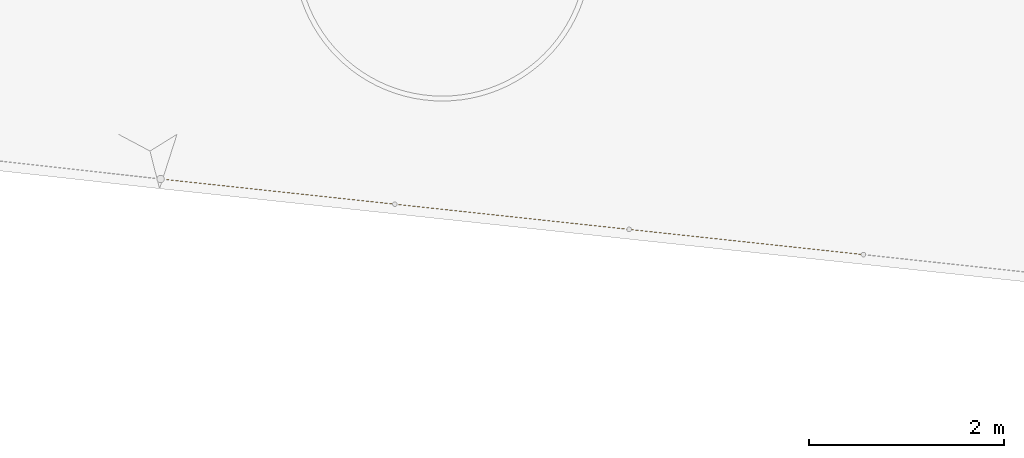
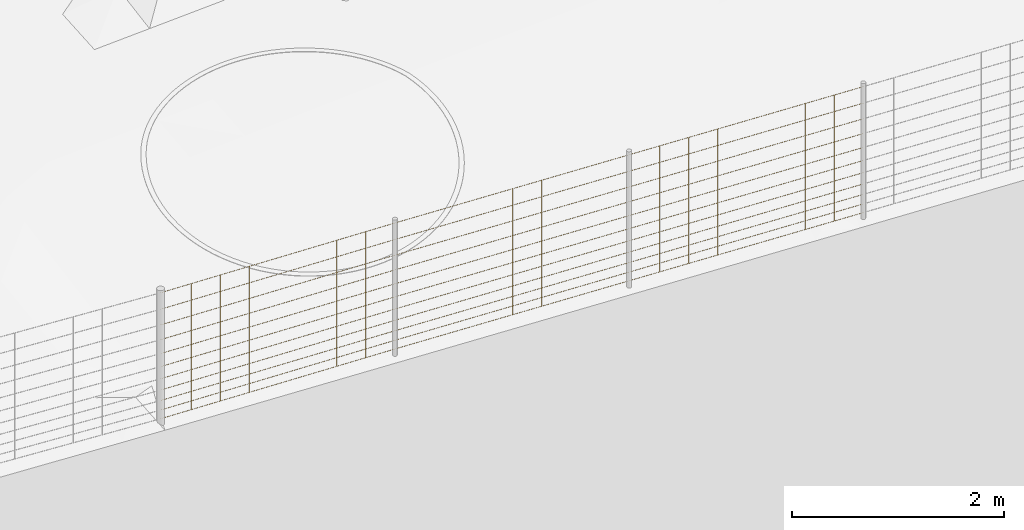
# Not in any storey, part 38 of 72: 3 railings.
"""IFC4 model written with IfcOpenShell, lengths in metres."""

from ifc_helpers import new_model, si_unit, direction, frame, origin_with_axes, place, context, subcontext, project, spatial, polygons, material, element, save


model = new_model("IFC4")

# Units and contexts
model_context = context("Model", 3, precision=1e-05, world=origin_with_axes(), true_north=direction((0.0, 1.0)))
body_context = subcontext(model_context, "Body", "Model", "MODEL_VIEW")
ifc_project = project(units=[si_unit("AREAUNIT", "SQUARE_METRE"), si_unit("VOLUMEUNIT", "CUBIC_METRE"), si_unit("LENGTHUNIT", "METRE")], contexts=[model_context])

# Site
site_placement = place(None, origin_with_axes())
site = spatial("IfcSite", under=ifc_project, at=site_placement, Name="Lares · Rua das Mercês · artigo 4771")

# Railings
ifc_material = material(Name="Aço galvanizado / Stahl verzinkt", Category="steel")
railing_1_placement = place(site_placement, frame((0.0, 0.0, 0.0), z_axis=(0.0, 0.0, 1.0), x_axis=(1.0, -1.03767253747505e-17, 0.0)))
element("IfcRailing", 1, at=railing_1_placement, inside=site, material=ifc_material, Name="Vedação · rede ovelheira 1.020", ObjectType="SHEEP_WIRE_FENCE", PredefinedType="USERDEFINED", context=body_context, shape_type="Tessellation", body=[
    polygons([(42.3277956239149, -1.79084154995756, 13.3975692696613), (42.3276973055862, -1.79233962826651, 13.3960705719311), (42.3274747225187, -1.79382433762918, 13.3975692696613), (42.3275730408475, -1.79232625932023, 13.3990679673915), (39.9270800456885, -1.53256202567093, 13.296889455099), (39.9269817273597, -1.53406010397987, 13.2953907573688), (39.9267591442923, -1.53554481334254, 13.296889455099), (39.926857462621, -1.53404673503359, 13.2983881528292), (42.3277956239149, -1.79084154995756, 13.4975692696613), (42.3276973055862, -1.79233962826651, 13.4960705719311), (42.3274747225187, -1.79382433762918, 13.4975692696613), (42.3275730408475, -1.79232625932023, 13.4990679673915), (39.9270800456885, -1.53256202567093, 13.396889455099), (39.9269817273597, -1.53406010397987, 13.3953907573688), (39.9267591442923, -1.53554481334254, 13.396889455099), (39.926857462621, -1.53404673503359, 13.3983881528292), (42.3277956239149, -1.79084154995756, 13.6075692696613), (42.3276973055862, -1.79233962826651, 13.6060705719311), (42.3274747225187, -1.79382433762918, 13.6075692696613), (42.3275730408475, -1.79232625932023, 13.6090679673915), (39.9270800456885, -1.53256202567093, 13.506889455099), (39.9269817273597, -1.53406010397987, 13.5053907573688), (39.9267591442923, -1.53554481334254, 13.506889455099), (39.926857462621, -1.53404673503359, 13.5083881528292), (42.3277956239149, -1.79084154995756, 13.7275692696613), (42.3276973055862, -1.79233962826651, 13.7260705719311), (42.3274747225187, -1.79382433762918, 13.7275692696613), (42.3275730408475, -1.79232625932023, 13.7290679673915), (39.9270800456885, -1.53256202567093, 13.626889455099), (39.9269817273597, -1.53406010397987, 13.6253907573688), (39.9267591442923, -1.53554481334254, 13.626889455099), (39.926857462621, -1.53404673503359, 13.6283881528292), (42.3277956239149, -1.79084154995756, 13.8575692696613), (42.3276973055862, -1.79233962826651, 13.8560705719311), (42.3274747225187, -1.79382433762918, 13.8575692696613), (42.3275730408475, -1.79232625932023, 13.8590679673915), (39.9270800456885, -1.53256202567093, 13.756889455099), (39.9269817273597, -1.53406010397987, 13.7553907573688), (39.9267591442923, -1.53554481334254, 13.756889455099), (39.926857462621, -1.53404673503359, 13.7583881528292), (42.3277956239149, -1.79084154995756, 13.9975692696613), (42.3276973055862, -1.79233962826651, 13.9960705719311), (42.3274747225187, -1.79382433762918, 13.9975692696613), (42.3275730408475, -1.79232625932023, 13.9990679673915), (39.9270800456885, -1.53256202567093, 13.896889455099), (39.9269817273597, -1.53406010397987, 13.8953907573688), (39.9267591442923, -1.53554481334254, 13.896889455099), (39.926857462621, -1.53404673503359, 13.8983881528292), (42.3277956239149, -1.79084154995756, 14.1475692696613), (42.3276973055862, -1.79233962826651, 14.1460705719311), (42.3274747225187, -1.79382433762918, 14.1475692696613), (42.3275730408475, -1.79232625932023, 14.1490679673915), (39.9270800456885, -1.53256202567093, 14.046889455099), (39.9269817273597, -1.53406010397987, 14.0453907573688), (39.9267591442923, -1.53554481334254, 14.046889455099), (39.926857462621, -1.53404673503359, 14.0483881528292), (42.3277956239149, -1.79084154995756, 14.3075692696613), (42.3276973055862, -1.79233962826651, 14.3060705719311), (42.3274747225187, -1.79382433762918, 14.3075692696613), (42.3275730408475, -1.79232625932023, 14.3090679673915), (39.9270800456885, -1.53256202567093, 14.206889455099), (39.9269817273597, -1.53406010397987, 14.2053907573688), (39.9267591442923, -1.53554481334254, 14.206889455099), (39.926857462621, -1.53404673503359, 14.2083881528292), (42.3277956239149, -1.79084154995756, 14.4775692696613), (42.3276973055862, -1.79233962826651, 14.4760705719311), (42.3274747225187, -1.79382433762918, 14.4775692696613), (42.3275730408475, -1.79232625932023, 14.4790679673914), (39.9270800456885, -1.53256202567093, 14.376889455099), (39.9269817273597, -1.53406010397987, 14.3753907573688), (39.9267591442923, -1.53554481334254, 14.376889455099), (39.926857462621, -1.53404673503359, 14.3783881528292), (42.3277956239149, -1.79084154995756, 14.6575692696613), (42.3276973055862, -1.79233962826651, 14.6560705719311), (42.3274747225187, -1.79382433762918, 14.6575692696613), (42.3275730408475, -1.79232625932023, 14.6590679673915), (39.9270800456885, -1.53256202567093, 14.556889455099), (39.9269817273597, -1.53406010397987, 14.5553907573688), (39.9267591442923, -1.53554481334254, 14.556889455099), (39.926857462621, -1.53404673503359, 14.5583881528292), (42.3277956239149, -1.79084154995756, 14.8475692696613), (42.3276973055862, -1.79233962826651, 14.8460705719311), (42.3274747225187, -1.79382433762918, 14.8475692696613), (42.3275730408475, -1.79232625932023, 14.8490679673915), (39.9270800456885, -1.53256202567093, 14.746889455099), (39.9269817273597, -1.53406010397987, 14.7453907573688), (39.9267591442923, -1.53554481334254, 14.746889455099), (39.926857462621, -1.53404673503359, 14.7483881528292), (42.0293564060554, -1.75874280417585, 13.3850602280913), (42.0278564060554, -1.76024280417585, 13.3850602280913), (42.0293564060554, -1.76174280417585, 13.3850602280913), (42.0308564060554, -1.76024280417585, 13.3850602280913), (42.0293564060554, -1.75874280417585, 14.8350602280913), (42.0278564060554, -1.76024280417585, 14.8350602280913), (42.0293564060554, -1.76174280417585, 14.8350602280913), (42.0308564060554, -1.76024280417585, 14.8350602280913), (41.731077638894, -1.72665266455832, 13.3725511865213), (41.729577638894, -1.72815266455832, 13.3725511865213), (41.731077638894, -1.72965266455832, 13.3725511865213), (41.732577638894, -1.72815266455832, 13.3725511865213), (41.731077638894, -1.72665266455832, 14.8225511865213), (41.729577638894, -1.72815266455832, 14.8225511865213), (41.731077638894, -1.72965266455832, 14.8225511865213), (41.732577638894, -1.72815266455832, 14.8225511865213), (41.4327988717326, -1.6945625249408, 13.3600421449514), (41.4312988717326, -1.6960625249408, 13.3600421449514), (41.4327988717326, -1.6975625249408, 13.3600421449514), (41.4342988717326, -1.6960625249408, 13.3600421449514), (41.4327988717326, -1.6945625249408, 14.8100421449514), (41.4312988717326, -1.6960625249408, 14.8100421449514), (41.4327988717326, -1.6975625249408, 14.8100421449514), (41.4342988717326, -1.6960625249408, 14.8100421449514), (41.1345201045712, -1.66247238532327, 13.3475331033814), (41.1330201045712, -1.66397238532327, 13.3475331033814), (41.1345201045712, -1.66547238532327, 13.3475331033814), (41.1360201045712, -1.66397238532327, 13.3475331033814), (41.1345201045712, -1.66247238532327, 14.7975331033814), (41.1330201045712, -1.66397238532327, 14.7975331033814), (41.1345201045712, -1.66547238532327, 14.7975331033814), (41.1360201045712, -1.66397238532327, 14.7975331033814), (40.8362413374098, -1.63038224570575, 13.3350240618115), (40.8347413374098, -1.63188224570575, 13.3350240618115), (40.8362413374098, -1.63338224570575, 13.3350240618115), (40.8377413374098, -1.63188224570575, 13.3350240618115), (40.8362413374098, -1.63038224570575, 14.7850240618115), (40.8347413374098, -1.63188224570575, 14.7850240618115), (40.8362413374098, -1.63338224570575, 14.7850240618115), (40.8377413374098, -1.63188224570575, 14.7850240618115), (40.5379625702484, -1.59829210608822, 13.3225150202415), (40.5364625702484, -1.59979210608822, 13.3225150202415), (40.5379625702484, -1.60129210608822, 13.3225150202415), (40.5394625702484, -1.59979210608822, 13.3225150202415), (40.5379625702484, -1.59829210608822, 14.7725150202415), (40.5364625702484, -1.59979210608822, 14.7725150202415), (40.5379625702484, -1.60129210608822, 14.7725150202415), (40.5394625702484, -1.59979210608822, 14.7725150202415), (40.239683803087, -1.5662019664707, 13.3100059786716), (40.238183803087, -1.5677019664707, 13.3100059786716), (40.239683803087, -1.5692019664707, 13.3100059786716), (40.241183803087, -1.5677019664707, 13.3100059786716), (40.239683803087, -1.5662019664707, 14.7600059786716), (40.238183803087, -1.5677019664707, 14.7600059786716), (40.239683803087, -1.5692019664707, 14.7600059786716), (40.241183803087, -1.5677019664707, 14.7600059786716)], [[[4, 3, 2, 1]], [[5, 6, 7, 8]], [[1, 2, 6, 5]], [[2, 3, 7, 6]], [[3, 4, 8, 7]], [[4, 1, 5, 8]], [[12, 11, 10, 9]], [[13, 14, 15, 16]], [[9, 10, 14, 13]], [[10, 11, 15, 14]], [[11, 12, 16, 15]], [[12, 9, 13, 16]], [[20, 19, 18, 17]], [[21, 22, 23, 24]], [[17, 18, 22, 21]], [[18, 19, 23, 22]], [[19, 20, 24, 23]], [[20, 17, 21, 24]], [[28, 27, 26, 25]], [[29, 30, 31, 32]], [[25, 26, 30, 29]], [[26, 27, 31, 30]], [[27, 28, 32, 31]], [[28, 25, 29, 32]], [[36, 35, 34, 33]], [[37, 38, 39, 40]], [[33, 34, 38, 37]], [[34, 35, 39, 38]], [[35, 36, 40, 39]], [[36, 33, 37, 40]], [[44, 43, 42, 41]], [[45, 46, 47, 48]], [[41, 42, 46, 45]], [[42, 43, 47, 46]], [[43, 44, 48, 47]], [[44, 41, 45, 48]], [[52, 51, 50, 49]], [[53, 54, 55, 56]], [[49, 50, 54, 53]], [[50, 51, 55, 54]], [[51, 52, 56, 55]], [[52, 49, 53, 56]], [[60, 59, 58, 57]], [[61, 62, 63, 64]], [[57, 58, 62, 61]], [[58, 59, 63, 62]], [[59, 60, 64, 63]], [[60, 57, 61, 64]], [[68, 67, 66, 65]], [[69, 70, 71, 72]], [[65, 66, 70, 69]], [[66, 67, 71, 70]], [[67, 68, 72, 71]], [[68, 65, 69, 72]], [[76, 75, 74, 73]], [[77, 78, 79, 80]], [[73, 74, 78, 77]], [[74, 75, 79, 78]], [[75, 76, 80, 79]], [[76, 73, 77, 80]], [[84, 83, 82, 81]], [[85, 86, 87, 88]], [[81, 82, 86, 85]], [[82, 83, 87, 86]], [[83, 84, 88, 87]], [[84, 81, 85, 88]], [[92, 91, 90, 89]], [[93, 94, 95, 96]], [[89, 90, 94, 93]], [[90, 91, 95, 94]], [[91, 92, 96, 95]], [[92, 89, 93, 96]], [[100, 99, 98, 97]], [[101, 102, 103, 104]], [[97, 98, 102, 101]], [[98, 99, 103, 102]], [[99, 100, 104, 103]], [[100, 97, 101, 104]], [[108, 107, 106, 105]], [[109, 110, 111, 112]], [[105, 106, 110, 109]], [[106, 107, 111, 110]], [[107, 108, 112, 111]], [[108, 105, 109, 112]], [[116, 115, 114, 113]], [[117, 118, 119, 120]], [[113, 114, 118, 117]], [[114, 115, 119, 118]], [[115, 116, 120, 119]], [[116, 113, 117, 120]], [[124, 123, 122, 121]], [[125, 126, 127, 128]], [[121, 122, 126, 125]], [[122, 123, 127, 126]], [[123, 124, 128, 127]], [[124, 121, 125, 128]], [[132, 131, 130, 129]], [[133, 134, 135, 136]], [[129, 130, 134, 133]], [[130, 131, 135, 134]], [[131, 132, 136, 135]], [[132, 129, 133, 136]], [[140, 139, 138, 137]], [[141, 142, 143, 144]], [[137, 138, 142, 141]], [[138, 139, 143, 142]], [[139, 140, 144, 143]], [[140, 137, 141, 144]]]),
])
railing_2_placement = place(site_placement, frame((0.0, 0.0, 0.0), z_axis=(0.0, 0.0, 1.0), x_axis=(1.0, -1.03767253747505e-17, 0.0)))
element("IfcRailing", 2, at=railing_2_placement, inside=site, material=ifc_material, Name="Vedação · rede ovelheira 1.021", ObjectType="SHEEP_WIRE_FENCE", PredefinedType="USERDEFINED", context=body_context, shape_type="Tessellation", body=[
    polygons([(39.9270800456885, -1.53256202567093, 13.296889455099), (39.9269820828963, -1.53406014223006, 13.2953907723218), (39.9267591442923, -1.53554481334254, 13.296889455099), (39.9268571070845, -1.53404669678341, 13.2983881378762), (37.526364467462, -1.27428250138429, 13.1956325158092), (37.5262665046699, -1.27578061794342, 13.194133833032), (37.5260435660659, -1.2772652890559, 13.1956325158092), (37.526141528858, -1.27576717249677, 13.1971311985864), (39.9270800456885, -1.53256202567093, 13.396889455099), (39.9269820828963, -1.53406014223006, 13.3953907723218), (39.9267591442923, -1.53554481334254, 13.396889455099), (39.9268571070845, -1.53404669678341, 13.3983881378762), (37.526364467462, -1.27428250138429, 13.2956325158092), (37.5262665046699, -1.27578061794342, 13.294133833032), (37.5260435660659, -1.2772652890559, 13.2956325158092), (37.526141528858, -1.27576717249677, 13.2971311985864), (39.9270800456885, -1.53256202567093, 13.506889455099), (39.9269820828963, -1.53406014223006, 13.5053907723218), (39.9267591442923, -1.53554481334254, 13.506889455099), (39.9268571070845, -1.53404669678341, 13.5083881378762), (37.526364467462, -1.27428250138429, 13.4056325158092), (37.5262665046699, -1.27578061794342, 13.404133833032), (37.5260435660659, -1.2772652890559, 13.4056325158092), (37.526141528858, -1.27576717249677, 13.4071311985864), (39.9270800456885, -1.53256202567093, 13.626889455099), (39.9269820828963, -1.53406014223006, 13.6253907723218), (39.9267591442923, -1.53554481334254, 13.626889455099), (39.9268571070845, -1.53404669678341, 13.6283881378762), (37.526364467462, -1.27428250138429, 13.5256325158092), (37.5262665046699, -1.27578061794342, 13.524133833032), (37.5260435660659, -1.2772652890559, 13.5256325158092), (37.526141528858, -1.27576717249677, 13.5271311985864), (39.9270800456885, -1.53256202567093, 13.756889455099), (39.9269820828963, -1.53406014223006, 13.7553907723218), (39.9267591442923, -1.53554481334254, 13.756889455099), (39.9268571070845, -1.53404669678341, 13.7583881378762), (37.526364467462, -1.27428250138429, 13.6556325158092), (37.5262665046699, -1.27578061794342, 13.654133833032), (37.5260435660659, -1.2772652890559, 13.6556325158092), (37.526141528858, -1.27576717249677, 13.6571311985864), (39.9270800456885, -1.53256202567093, 13.896889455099), (39.9269820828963, -1.53406014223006, 13.8953907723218), (39.9267591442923, -1.53554481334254, 13.896889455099), (39.9268571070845, -1.53404669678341, 13.8983881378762), (37.526364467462, -1.27428250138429, 13.7956325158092), (37.5262665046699, -1.27578061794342, 13.794133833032), (37.5260435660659, -1.2772652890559, 13.7956325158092), (37.526141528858, -1.27576717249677, 13.7971311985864), (39.9270800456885, -1.53256202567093, 14.046889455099), (39.9269820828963, -1.53406014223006, 14.0453907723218), (39.9267591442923, -1.53554481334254, 14.046889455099), (39.9268571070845, -1.53404669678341, 14.0483881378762), (37.526364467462, -1.27428250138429, 13.9456325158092), (37.5262665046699, -1.27578061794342, 13.944133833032), (37.5260435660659, -1.2772652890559, 13.9456325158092), (37.526141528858, -1.27576717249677, 13.9471311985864), (39.9270800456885, -1.53256202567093, 14.206889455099), (39.9269820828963, -1.53406014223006, 14.2053907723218), (39.9267591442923, -1.53554481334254, 14.206889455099), (39.9268571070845, -1.53404669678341, 14.2083881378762), (37.526364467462, -1.27428250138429, 14.1056325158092), (37.5262665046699, -1.27578061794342, 14.104133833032), (37.5260435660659, -1.2772652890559, 14.1056325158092), (37.526141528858, -1.27576717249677, 14.1071311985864), (39.9270800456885, -1.53256202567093, 14.376889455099), (39.9269820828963, -1.53406014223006, 14.3753907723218), (39.9267591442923, -1.53554481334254, 14.376889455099), (39.9268571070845, -1.53404669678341, 14.3783881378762), (37.526364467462, -1.27428250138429, 14.2756325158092), (37.5262665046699, -1.27578061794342, 14.274133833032), (37.5260435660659, -1.2772652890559, 14.2756325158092), (37.526141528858, -1.27576717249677, 14.2771311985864), (39.9270800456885, -1.53256202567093, 14.556889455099), (39.9269820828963, -1.53406014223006, 14.5553907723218), (39.9267591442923, -1.53554481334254, 14.556889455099), (39.9268571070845, -1.53404669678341, 14.5583881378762), (37.526364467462, -1.27428250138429, 14.4556325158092), (37.5262665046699, -1.27578061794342, 14.454133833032), (37.5260435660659, -1.2772652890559, 14.4556325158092), (37.526141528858, -1.27576717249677, 14.4571311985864), (39.9270800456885, -1.53256202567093, 14.746889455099), (39.9269820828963, -1.53406014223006, 14.7453907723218), (39.9267591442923, -1.53554481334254, 14.746889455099), (39.9268571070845, -1.53404669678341, 14.7483881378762), (37.526364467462, -1.27428250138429, 14.6456325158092), (37.5262665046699, -1.27578061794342, 14.644133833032), (37.5260435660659, -1.2772652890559, 14.6456325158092), (37.526141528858, -1.27576717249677, 14.6471311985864), (39.628640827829, -1.50046327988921, 13.2843087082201), (39.627140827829, -1.50196327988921, 13.2843087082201), (39.628640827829, -1.50346327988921, 13.2843087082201), (39.630140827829, -1.50196327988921, 13.2843087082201), (39.628640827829, -1.50046327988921, 14.7343087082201), (39.627140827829, -1.50196327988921, 14.7343087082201), (39.628640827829, -1.50346327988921, 14.7343087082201), (39.630140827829, -1.50196327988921, 14.7343087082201), (39.3303620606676, -1.46837314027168, 13.2717279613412), (39.3288620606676, -1.46987314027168, 13.2717279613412), (39.3303620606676, -1.47137314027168, 13.2717279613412), (39.3318620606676, -1.46987314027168, 13.2717279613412), (39.3303620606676, -1.46837314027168, 14.7217279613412), (39.3288620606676, -1.46987314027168, 14.7217279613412), (39.3303620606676, -1.47137314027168, 14.7217279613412), (39.3318620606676, -1.46987314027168, 14.7217279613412), (39.0320832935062, -1.43628300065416, 13.2591472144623), (39.0305832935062, -1.43778300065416, 13.2591472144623), (39.0320832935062, -1.43928300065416, 13.2591472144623), (39.0335832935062, -1.43778300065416, 13.2591472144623), (39.0320832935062, -1.43628300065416, 14.7091472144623), (39.0305832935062, -1.43778300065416, 14.7091472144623), (39.0320832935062, -1.43928300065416, 14.7091472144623), (39.0335832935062, -1.43778300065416, 14.7091472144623), (38.7338045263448, -1.40419286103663, 13.2465664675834), (38.7323045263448, -1.40569286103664, 13.2465664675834), (38.7338045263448, -1.40719286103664, 13.2465664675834), (38.7353045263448, -1.40569286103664, 13.2465664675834), (38.7338045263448, -1.40419286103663, 14.6965664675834), (38.7323045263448, -1.40569286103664, 14.6965664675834), (38.7338045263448, -1.40719286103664, 14.6965664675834), (38.7353045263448, -1.40569286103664, 14.6965664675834), (38.4355257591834, -1.37210272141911, 13.2339857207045), (38.4340257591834, -1.37360272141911, 13.2339857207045), (38.4355257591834, -1.37510272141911, 13.2339857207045), (38.4370257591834, -1.37360272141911, 13.2339857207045), (38.4355257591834, -1.37210272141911, 14.6839857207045), (38.4340257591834, -1.37360272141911, 14.6839857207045), (38.4355257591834, -1.37510272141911, 14.6839857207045), (38.4370257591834, -1.37360272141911, 14.6839857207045), (38.137246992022, -1.34001258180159, 13.2214049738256), (38.135746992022, -1.34151258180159, 13.2214049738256), (38.137246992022, -1.34301258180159, 13.2214049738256), (38.138746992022, -1.34151258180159, 13.2214049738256), (38.137246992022, -1.34001258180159, 14.6714049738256), (38.135746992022, -1.34151258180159, 14.6714049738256), (38.137246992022, -1.34301258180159, 14.6714049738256), (38.138746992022, -1.34151258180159, 14.6714049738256), (37.8389682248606, -1.30792244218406, 13.2088242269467), (37.8374682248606, -1.30942244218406, 13.2088242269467), (37.8389682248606, -1.31092244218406, 13.2088242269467), (37.8404682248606, -1.30942244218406, 13.2088242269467), (37.8389682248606, -1.30792244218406, 14.6588242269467), (37.8374682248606, -1.30942244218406, 14.6588242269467), (37.8389682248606, -1.31092244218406, 14.6588242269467), (37.8404682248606, -1.30942244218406, 14.6588242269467)], [[[4, 3, 2, 1]], [[5, 6, 7, 8]], [[1, 2, 6, 5]], [[2, 3, 7, 6]], [[3, 4, 8, 7]], [[4, 1, 5, 8]], [[12, 11, 10, 9]], [[13, 14, 15, 16]], [[9, 10, 14, 13]], [[10, 11, 15, 14]], [[11, 12, 16, 15]], [[12, 9, 13, 16]], [[20, 19, 18, 17]], [[21, 22, 23, 24]], [[17, 18, 22, 21]], [[18, 19, 23, 22]], [[19, 20, 24, 23]], [[20, 17, 21, 24]], [[28, 27, 26, 25]], [[29, 30, 31, 32]], [[25, 26, 30, 29]], [[26, 27, 31, 30]], [[27, 28, 32, 31]], [[28, 25, 29, 32]], [[36, 35, 34, 33]], [[37, 38, 39, 40]], [[33, 34, 38, 37]], [[34, 35, 39, 38]], [[35, 36, 40, 39]], [[36, 33, 37, 40]], [[44, 43, 42, 41]], [[45, 46, 47, 48]], [[41, 42, 46, 45]], [[42, 43, 47, 46]], [[43, 44, 48, 47]], [[44, 41, 45, 48]], [[52, 51, 50, 49]], [[53, 54, 55, 56]], [[49, 50, 54, 53]], [[50, 51, 55, 54]], [[51, 52, 56, 55]], [[52, 49, 53, 56]], [[60, 59, 58, 57]], [[61, 62, 63, 64]], [[57, 58, 62, 61]], [[58, 59, 63, 62]], [[59, 60, 64, 63]], [[60, 57, 61, 64]], [[68, 67, 66, 65]], [[69, 70, 71, 72]], [[65, 66, 70, 69]], [[66, 67, 71, 70]], [[67, 68, 72, 71]], [[68, 65, 69, 72]], [[76, 75, 74, 73]], [[77, 78, 79, 80]], [[73, 74, 78, 77]], [[74, 75, 79, 78]], [[75, 76, 80, 79]], [[76, 73, 77, 80]], [[84, 83, 82, 81]], [[85, 86, 87, 88]], [[81, 82, 86, 85]], [[82, 83, 87, 86]], [[83, 84, 88, 87]], [[84, 81, 85, 88]], [[92, 91, 90, 89]], [[93, 94, 95, 96]], [[89, 90, 94, 93]], [[90, 91, 95, 94]], [[91, 92, 96, 95]], [[92, 89, 93, 96]], [[100, 99, 98, 97]], [[101, 102, 103, 104]], [[97, 98, 102, 101]], [[98, 99, 103, 102]], [[99, 100, 104, 103]], [[100, 97, 101, 104]], [[108, 107, 106, 105]], [[109, 110, 111, 112]], [[105, 106, 110, 109]], [[106, 107, 111, 110]], [[107, 108, 112, 111]], [[108, 105, 109, 112]], [[116, 115, 114, 113]], [[117, 118, 119, 120]], [[113, 114, 118, 117]], [[114, 115, 119, 118]], [[115, 116, 120, 119]], [[116, 113, 117, 120]], [[124, 123, 122, 121]], [[125, 126, 127, 128]], [[121, 122, 126, 125]], [[122, 123, 127, 126]], [[123, 124, 128, 127]], [[124, 121, 125, 128]], [[132, 131, 130, 129]], [[133, 134, 135, 136]], [[129, 130, 134, 133]], [[130, 131, 135, 134]], [[131, 132, 136, 135]], [[132, 129, 133, 136]], [[140, 139, 138, 137]], [[141, 142, 143, 144]], [[137, 138, 142, 141]], [[138, 139, 143, 142]], [[139, 140, 144, 143]], [[140, 137, 141, 144]]]),
])
railing_3_placement = place(site_placement, frame((0.0, 0.0, 0.0), z_axis=(0.0, 0.0, 1.0), x_axis=(1.0, -1.03767253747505e-17, 0.0)))
element("IfcRailing", 3, at=railing_3_placement, inside=site, material=ifc_material, Name="Vedação · rede ovelheira 1.022", ObjectType="SHEEP_WIRE_FENCE", PredefinedType="USERDEFINED", context=body_context, shape_type="Tessellation", body=[
    polygons([(37.526364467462, -1.27428250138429, 13.1956325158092), (37.5262772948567, -1.2757817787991, 13.1941343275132), (37.5260435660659, -1.2772652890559, 13.1956325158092), (37.5261307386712, -1.27576601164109, 13.1971307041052), (35.1256488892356, -1.01600297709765, 13.0768517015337), (35.1255617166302, -1.01750225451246, 13.0753535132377), (35.1253279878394, -1.01898576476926, 13.0768517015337), (35.1254151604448, -1.01748648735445, 13.0783498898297), (37.526364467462, -1.27428250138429, 13.2956325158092), (37.5262772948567, -1.2757817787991, 13.2941343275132), (37.5260435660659, -1.2772652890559, 13.2956325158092), (37.5261307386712, -1.27576601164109, 13.2971307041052), (35.1256488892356, -1.01600297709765, 13.1768517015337), (35.1255617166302, -1.01750225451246, 13.1753535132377), (35.1253279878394, -1.01898576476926, 13.1768517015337), (35.1254151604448, -1.01748648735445, 13.1783498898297), (37.526364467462, -1.27428250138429, 13.4056325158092), (37.5262772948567, -1.2757817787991, 13.4041343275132), (37.5260435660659, -1.2772652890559, 13.4056325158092), (37.5261307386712, -1.27576601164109, 13.4071307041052), (35.1256488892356, -1.01600297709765, 13.2868517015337), (35.1255617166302, -1.01750225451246, 13.2853535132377), (35.1253279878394, -1.01898576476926, 13.2868517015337), (35.1254151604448, -1.01748648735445, 13.2883498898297), (37.526364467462, -1.27428250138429, 13.5256325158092), (37.5262772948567, -1.2757817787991, 13.5241343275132), (37.5260435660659, -1.2772652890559, 13.5256325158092), (37.5261307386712, -1.27576601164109, 13.5271307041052), (35.1256488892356, -1.01600297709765, 13.4068517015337), (35.1255617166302, -1.01750225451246, 13.4053535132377), (35.1253279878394, -1.01898576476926, 13.4068517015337), (35.1254151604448, -1.01748648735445, 13.4083498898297), (37.526364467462, -1.27428250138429, 13.6556325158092), (37.5262772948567, -1.2757817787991, 13.6541343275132), (37.5260435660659, -1.2772652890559, 13.6556325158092), (37.5261307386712, -1.27576601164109, 13.6571307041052), (35.1256488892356, -1.01600297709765, 13.5368517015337), (35.1255617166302, -1.01750225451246, 13.5353535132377), (35.1253279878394, -1.01898576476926, 13.5368517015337), (35.1254151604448, -1.01748648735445, 13.5383498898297), (37.526364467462, -1.27428250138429, 13.7956325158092), (37.5262772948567, -1.2757817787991, 13.7941343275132), (37.5260435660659, -1.2772652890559, 13.7956325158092), (37.5261307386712, -1.27576601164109, 13.7971307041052), (35.1256488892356, -1.01600297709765, 13.6768517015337), (35.1255617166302, -1.01750225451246, 13.6753535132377), (35.1253279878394, -1.01898576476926, 13.6768517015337), (35.1254151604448, -1.01748648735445, 13.6783498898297), (37.526364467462, -1.27428250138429, 13.9456325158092), (37.5262772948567, -1.2757817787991, 13.9441343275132), (37.5260435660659, -1.2772652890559, 13.9456325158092), (37.5261307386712, -1.27576601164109, 13.9471307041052), (35.1256488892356, -1.01600297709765, 13.8268517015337), (35.1255617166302, -1.01750225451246, 13.8253535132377), (35.1253279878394, -1.01898576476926, 13.8268517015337), (35.1254151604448, -1.01748648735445, 13.8283498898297), (37.526364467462, -1.27428250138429, 14.1056325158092), (37.5262772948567, -1.2757817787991, 14.1041343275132), (37.5260435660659, -1.2772652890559, 14.1056325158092), (37.5261307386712, -1.27576601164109, 14.1071307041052), (35.1256488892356, -1.01600297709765, 13.9868517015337), (35.1255617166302, -1.01750225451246, 13.9853535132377), (35.1253279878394, -1.01898576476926, 13.9868517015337), (35.1254151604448, -1.01748648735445, 13.9883498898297), (37.526364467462, -1.27428250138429, 14.2756325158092), (37.5262772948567, -1.2757817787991, 14.2741343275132), (37.5260435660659, -1.2772652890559, 14.2756325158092), (37.5261307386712, -1.27576601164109, 14.2771307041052), (35.1256488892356, -1.01600297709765, 14.1568517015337), (35.1255617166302, -1.01750225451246, 14.1553535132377), (35.1253279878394, -1.01898576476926, 14.1568517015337), (35.1254151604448, -1.01748648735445, 14.1583498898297), (37.526364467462, -1.27428250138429, 14.4556325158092), (37.5262772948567, -1.2757817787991, 14.4541343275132), (37.5260435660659, -1.2772652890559, 14.4556325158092), (37.5261307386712, -1.27576601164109, 14.4571307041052), (35.1256488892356, -1.01600297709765, 14.3368517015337), (35.1255617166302, -1.01750225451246, 14.3353535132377), (35.1253279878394, -1.01898576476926, 14.3368517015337), (35.1254151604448, -1.01748648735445, 14.3383498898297), (37.526364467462, -1.27428250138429, 14.6456325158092), (37.5262772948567, -1.2757817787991, 14.6441343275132), (37.5260435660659, -1.2772652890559, 14.6456325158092), (37.5261307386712, -1.27576601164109, 14.6471307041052), (35.1256488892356, -1.01600297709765, 14.5268517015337), (35.1255617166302, -1.01750225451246, 14.5253535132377), (35.1253279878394, -1.01898576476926, 14.5268517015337), (35.1254151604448, -1.01748648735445, 14.5283498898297), (37.2279252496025, -1.24218375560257, 13.1808745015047), (37.2264252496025, -1.24368375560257, 13.1808745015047), (37.2279252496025, -1.24518375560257, 13.1808745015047), (37.2294252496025, -1.24368375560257, 13.1808745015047), (37.2279252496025, -1.24218375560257, 14.6308745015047), (37.2264252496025, -1.24368375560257, 14.6308745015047), (37.2279252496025, -1.24518375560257, 14.6308745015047), (37.2294252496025, -1.24368375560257, 14.6308745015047), (36.9296464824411, -1.21009361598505, 13.1661164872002), (36.9281464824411, -1.21159361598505, 13.1661164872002), (36.9296464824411, -1.21309361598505, 13.1661164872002), (36.9311464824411, -1.21159361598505, 13.1661164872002), (36.9296464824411, -1.21009361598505, 14.6161164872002), (36.9281464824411, -1.21159361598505, 14.6161164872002), (36.9296464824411, -1.21309361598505, 14.6161164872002), (36.9311464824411, -1.21159361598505, 14.6161164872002), (36.6313677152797, -1.17800347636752, 13.1513584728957), (36.6298677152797, -1.17950347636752, 13.1513584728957), (36.6313677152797, -1.18100347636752, 13.1513584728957), (36.6328677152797, -1.17950347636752, 13.1513584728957), (36.6313677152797, -1.17800347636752, 14.6013584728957), (36.6298677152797, -1.17950347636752, 14.6013584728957), (36.6313677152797, -1.18100347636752, 14.6013584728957), (36.6328677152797, -1.17950347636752, 14.6013584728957), (36.3330889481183, -1.14591333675, 13.1366004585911), (36.3315889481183, -1.14741333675, 13.1366004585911), (36.3330889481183, -1.14891333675, 13.1366004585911), (36.3345889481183, -1.14741333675, 13.1366004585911), (36.3330889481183, -1.14591333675, 14.5866004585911), (36.3315889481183, -1.14741333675, 14.5866004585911), (36.3330889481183, -1.14891333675, 14.5866004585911), (36.3345889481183, -1.14741333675, 14.5866004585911), (36.0348101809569, -1.11382319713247, 13.1218424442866), (36.0333101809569, -1.11532319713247, 13.1218424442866), (36.0348101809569, -1.11682319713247, 13.1218424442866), (36.0363101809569, -1.11532319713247, 13.1218424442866), (36.0348101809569, -1.11382319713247, 14.5718424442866), (36.0333101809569, -1.11532319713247, 14.5718424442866), (36.0348101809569, -1.11682319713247, 14.5718424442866), (36.0363101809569, -1.11532319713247, 14.5718424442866), (35.7365314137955, -1.08173305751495, 13.1070844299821), (35.7350314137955, -1.08323305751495, 13.1070844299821), (35.7365314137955, -1.08473305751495, 13.1070844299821), (35.7380314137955, -1.08323305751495, 13.1070844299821), (35.7365314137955, -1.08173305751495, 14.5570844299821), (35.7350314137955, -1.08323305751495, 14.5570844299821), (35.7365314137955, -1.08473305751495, 14.5570844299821), (35.7380314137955, -1.08323305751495, 14.5570844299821), (35.4382526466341, -1.04964291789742, 13.0923264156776), (35.4367526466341, -1.05114291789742, 13.0923264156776), (35.4382526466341, -1.05264291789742, 13.0923264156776), (35.4397526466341, -1.05114291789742, 13.0923264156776), (35.4382526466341, -1.04964291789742, 14.5423264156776), (35.4367526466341, -1.05114291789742, 14.5423264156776), (35.4382526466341, -1.05264291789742, 14.5423264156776), (35.4397526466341, -1.05114291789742, 14.5423264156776)], [[[4, 3, 2, 1]], [[5, 6, 7, 8]], [[1, 2, 6, 5]], [[2, 3, 7, 6]], [[3, 4, 8, 7]], [[4, 1, 5, 8]], [[12, 11, 10, 9]], [[13, 14, 15, 16]], [[9, 10, 14, 13]], [[10, 11, 15, 14]], [[11, 12, 16, 15]], [[12, 9, 13, 16]], [[20, 19, 18, 17]], [[21, 22, 23, 24]], [[17, 18, 22, 21]], [[18, 19, 23, 22]], [[19, 20, 24, 23]], [[20, 17, 21, 24]], [[28, 27, 26, 25]], [[29, 30, 31, 32]], [[25, 26, 30, 29]], [[26, 27, 31, 30]], [[27, 28, 32, 31]], [[28, 25, 29, 32]], [[36, 35, 34, 33]], [[37, 38, 39, 40]], [[33, 34, 38, 37]], [[34, 35, 39, 38]], [[35, 36, 40, 39]], [[36, 33, 37, 40]], [[44, 43, 42, 41]], [[45, 46, 47, 48]], [[41, 42, 46, 45]], [[42, 43, 47, 46]], [[43, 44, 48, 47]], [[44, 41, 45, 48]], [[52, 51, 50, 49]], [[53, 54, 55, 56]], [[49, 50, 54, 53]], [[50, 51, 55, 54]], [[51, 52, 56, 55]], [[52, 49, 53, 56]], [[60, 59, 58, 57]], [[61, 62, 63, 64]], [[57, 58, 62, 61]], [[58, 59, 63, 62]], [[59, 60, 64, 63]], [[60, 57, 61, 64]], [[68, 67, 66, 65]], [[69, 70, 71, 72]], [[65, 66, 70, 69]], [[66, 67, 71, 70]], [[67, 68, 72, 71]], [[68, 65, 69, 72]], [[76, 75, 74, 73]], [[77, 78, 79, 80]], [[73, 74, 78, 77]], [[74, 75, 79, 78]], [[75, 76, 80, 79]], [[76, 73, 77, 80]], [[84, 83, 82, 81]], [[85, 86, 87, 88]], [[81, 82, 86, 85]], [[82, 83, 87, 86]], [[83, 84, 88, 87]], [[84, 81, 85, 88]], [[92, 91, 90, 89]], [[93, 94, 95, 96]], [[89, 90, 94, 93]], [[90, 91, 95, 94]], [[91, 92, 96, 95]], [[92, 89, 93, 96]], [[100, 99, 98, 97]], [[101, 102, 103, 104]], [[97, 98, 102, 101]], [[98, 99, 103, 102]], [[99, 100, 104, 103]], [[100, 97, 101, 104]], [[108, 107, 106, 105]], [[109, 110, 111, 112]], [[105, 106, 110, 109]], [[106, 107, 111, 110]], [[107, 108, 112, 111]], [[108, 105, 109, 112]], [[116, 115, 114, 113]], [[117, 118, 119, 120]], [[113, 114, 118, 117]], [[114, 115, 119, 118]], [[115, 116, 120, 119]], [[116, 113, 117, 120]], [[124, 123, 122, 121]], [[125, 126, 127, 128]], [[121, 122, 126, 125]], [[122, 123, 127, 126]], [[123, 124, 128, 127]], [[124, 121, 125, 128]], [[132, 131, 130, 129]], [[133, 134, 135, 136]], [[129, 130, 134, 133]], [[130, 131, 135, 134]], [[131, 132, 136, 135]], [[132, 129, 133, 136]], [[140, 139, 138, 137]], [[141, 142, 143, 144]], [[137, 138, 142, 141]], [[138, 139, 143, 142]], [[139, 140, 144, 143]], [[140, 137, 141, 144]]]),
])

save(model, "model.ifc")
